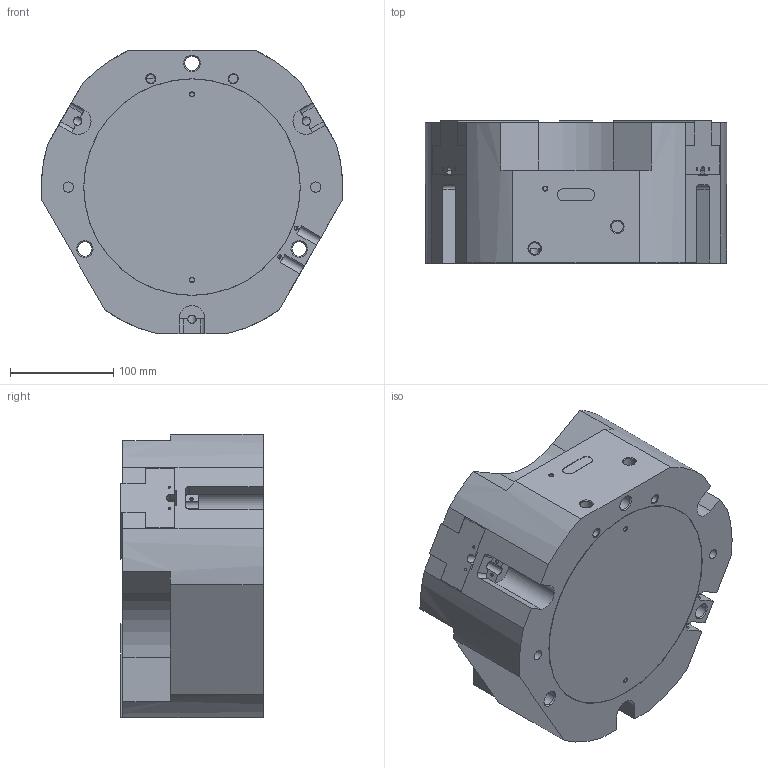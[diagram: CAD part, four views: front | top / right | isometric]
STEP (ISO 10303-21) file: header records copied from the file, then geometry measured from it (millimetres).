
FILE_DESCRIPTION( ( 'STEP AP214' ), '1' );
FILE_NAME( 'C:/Users/ashearer/Desktop/Mindman New CAD/Grippers/MCHJ-300-SD_0_.stp', ' ', ( ' ' ), ( ' ' ), 'PSStep 15.0.47', 'PARTsolutions', ' ' );
FILE_SCHEMA( ( 'AUTOMOTIVE_DESIGN { 1 0 10303 214 1 1 1 1 }' ) );
Length unit declared in the file: millimetre
Products named in the file (4): MCHJ-300-SD(0); _MCHJ-300-SD(dummy_0); _MCHJ-300-SD-body; _MCHJ-300-SD-finger
Assembly tree (5 placements, depth 2):
  MCHJ-300-SD(0)
    _MCHJ-300-SD(dummy_0)
    _MCHJ-300-SD-body
    _MCHJ-300-SD-finger  x3
Bounding box: 292 x 138 x 274.5 mm (x, y, z)
Volume: 7630322.4 mm3; surface area: 477065.4 mm2
Topology: 4 solids, 4 shells, 466 faces, 1172 edges, 758 vertices
Faces by surface type: plane 307, cylinder 117, cone 40, sphere 2
Full cylindrical faces by diameter (mm): 2.013 x12, 2.459 x6, 2.5 x6, 3.6 x6, 4.134 x3, 8 x3, 8.376 x9, 8.566 x2, 10 x2, 11.445 x2, 13.835 x3, 18 x9, 18.5 x3, 209.8 x1, 210 x1
Entity records: 11683 total; most frequent: CARTESIAN_POINT 1604, DIRECTION 1578, ORIENTED_EDGE 1434, EDGE_CURVE 717, AXIS2_PLACEMENT_3D 544, VERTEX_POINT 508, LINE 490, VECTOR 490
